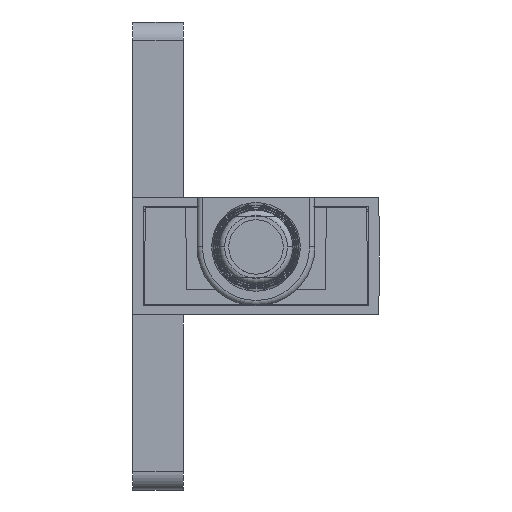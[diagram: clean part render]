
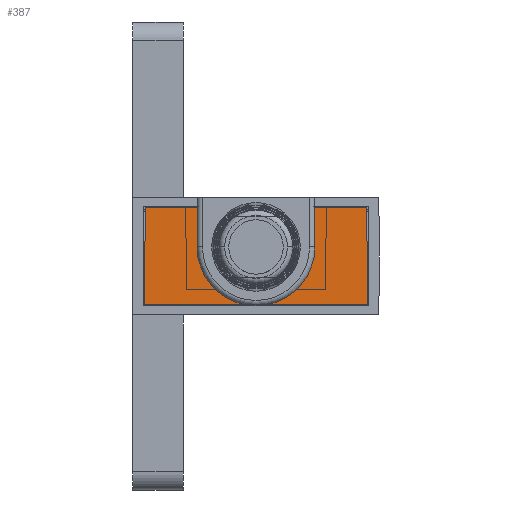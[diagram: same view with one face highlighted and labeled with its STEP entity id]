
A CAD part, front view. The second image highlights one B-rep face of the part: STEP entity #387.
In plain terms, the highlighted planar face has unit normal (0, -1, 0.009).
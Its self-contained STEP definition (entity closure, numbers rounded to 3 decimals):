
#154=ELLIPSE('',#4084,2.25,2.25);
#387=ADVANCED_FACE('',(#805),#577,.T.);
#577=PLANE('',#4085);
#805=FACE_OUTER_BOUND('',#1025,.T.);
#1025=EDGE_LOOP('',(#1778,#1779,#1780,#1781,#1782,#1783,#1784,#1785));
#1778=ORIENTED_EDGE('',*,*,#2913,.F.);
#1779=ORIENTED_EDGE('',*,*,#2914,.F.);
#1780=ORIENTED_EDGE('',*,*,#2915,.F.);
#1781=ORIENTED_EDGE('',*,*,#2912,.F.);
#1782=ORIENTED_EDGE('',*,*,#2916,.T.);
#1783=ORIENTED_EDGE('',*,*,#2917,.T.);
#1784=ORIENTED_EDGE('',*,*,#2918,.T.);
#1785=ORIENTED_EDGE('',*,*,#2919,.F.);
#2444=VERTEX_POINT('',#5884);
#2445=VERTEX_POINT('',#5886);
#2446=VERTEX_POINT('',#5890);
#2447=VERTEX_POINT('',#5891);
#2448=VERTEX_POINT('',#5893);
#2449=VERTEX_POINT('',#5896);
#2450=VERTEX_POINT('',#5898);
#2451=VERTEX_POINT('',#5900);
#2912=EDGE_CURVE('',#2445,#2444,#3429,.T.);
#2913=EDGE_CURVE('',#2446,#2447,#3430,.T.);
#2914=EDGE_CURVE('',#2448,#2446,#3431,.T.);
#2915=EDGE_CURVE('',#2444,#2448,#3432,.T.);
#2916=EDGE_CURVE('',#2445,#2449,#3433,.T.);
#2917=EDGE_CURVE('',#2449,#2450,#3434,.T.);
#2918=EDGE_CURVE('',#2450,#2451,#3435,.T.);
#2919=EDGE_CURVE('',#2447,#2451,#154,.T.);
#3429=LINE('',#5887,#3839);
#3430=LINE('',#5889,#3840);
#3431=LINE('',#5892,#3841);
#3432=LINE('',#5894,#3842);
#3433=LINE('',#5895,#3843);
#3434=LINE('',#5897,#3844);
#3435=LINE('',#5899,#3845);
#3839=VECTOR('',#4819,1.);
#3840=VECTOR('',#4822,1.);
#3841=VECTOR('',#4823,1.);
#3842=VECTOR('',#4824,1.);
#3843=VECTOR('',#4825,1.);
#3844=VECTOR('',#4826,1.);
#3845=VECTOR('',#4827,1.);
#4084=AXIS2_PLACEMENT_3D('',#5901,#4828,#4829);
#4085=AXIS2_PLACEMENT_3D('',#5902,#4830,#4831);
#4819=DIRECTION('',(-1.,0.,0.));
#4822=DIRECTION('',(0.017,-0.009,-1.));
#4823=DIRECTION('',(1.,0.,0.));
#4824=DIRECTION('',(0.009,0.009,1.));
#4825=DIRECTION('',(-0.009,0.009,1.));
#4826=DIRECTION('',(-1.,0.,0.));
#4827=DIRECTION('',(-0.017,-0.009,-1.));
#4828=DIRECTION('',(0.,-1.,0.009));
#4829=DIRECTION('',(0.,-0.009,-1.));
#4830=DIRECTION('',(0.,-1.,0.009));
#4831=DIRECTION('',(0.,-0.009,-1.));
#5884=CARTESIAN_POINT('',(-6.15,0.,0.875));
#5886=CARTESIAN_POINT('',(6.15,0.,0.875));
#5887=CARTESIAN_POINT('',(6.15,0.,0.875));
#5889=CARTESIAN_POINT('',(-2.289,0.047,6.275));
#5890=CARTESIAN_POINT('',(-2.289,0.047,6.275));
#5891=CARTESIAN_POINT('',(-2.25,0.028,4.036));
#5892=CARTESIAN_POINT('',(-6.103,0.047,6.275));
#5893=CARTESIAN_POINT('',(-6.103,0.047,6.275));
#5894=CARTESIAN_POINT('',(-6.15,0.,0.875));
#5895=CARTESIAN_POINT('',(6.15,0.,0.875));
#5896=CARTESIAN_POINT('',(6.103,0.047,6.275));
#5897=CARTESIAN_POINT('',(6.103,0.047,6.275));
#5898=CARTESIAN_POINT('',(2.289,0.047,6.275));
#5899=CARTESIAN_POINT('',(2.289,0.047,6.275));
#5900=CARTESIAN_POINT('',(2.25,0.028,4.036));
#5901=CARTESIAN_POINT('',(0.,0.028,4.075));
#5902=CARTESIAN_POINT('',(6.582,0.,0.875));
